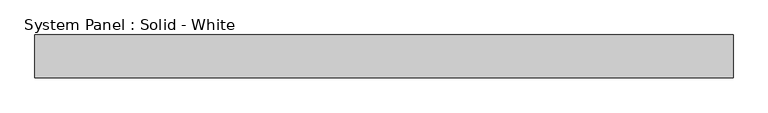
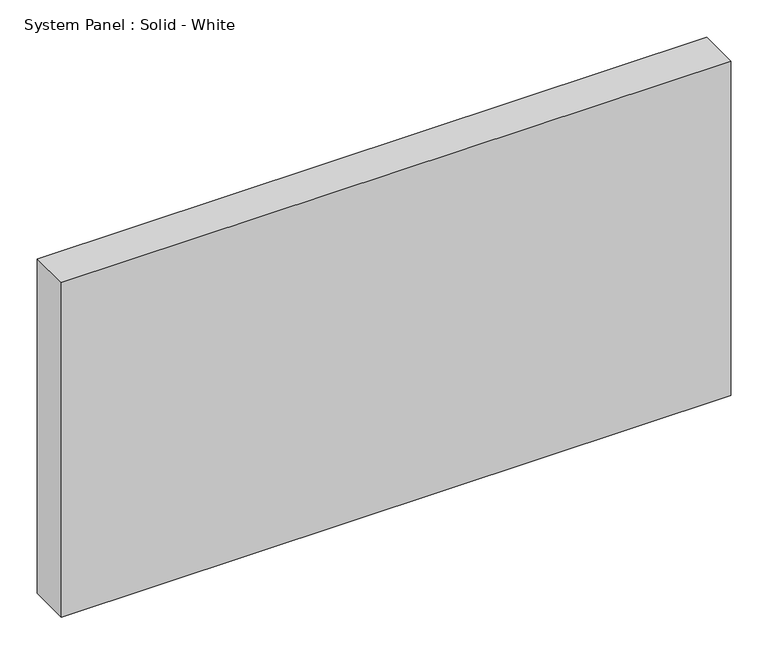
"""IFC4 building model written with IfcOpenShell, lengths in millimetres: plate geometry, System Panel : Solid - White."""

from ifc_helpers import new_model, si_unit, origin, origin_with_axes, place, context, project, spatial, polyline, outline, extrude, source, transform, mapped, element, save


def system_panel_solid_white_89e3ca97(model_context):
    return source(origin(), model_context, "Body", "SweptSolid", [
        extrude(outline(polyline([(516.255, -19.05), (-516.255, -19.05), (-516.255, 44.45), (516.255, 44.45), (516.255, -19.05)])), origin_with_axes(), (0.0, 0.0, 1.0), 546.1),
    ])


if __name__ == "__main__":
    model = new_model("IFC4")
    model_context = context("Model", 3, world=origin())
    ifc_project = project(units=[si_unit("LENGTHUNIT", "METRE", prefix="MILLI")], contexts=[model_context])
    site = spatial("IfcSite", under=ifc_project)
    building = spatial("IfcBuilding", under=site)
    placement = place(None, origin())
    system_panel_solid_white_shape = system_panel_solid_white_89e3ca97(model_context)
    element("IfcPlate", 1, ObjectType="System Panel : Solid - White", at=placement, inside=building, context=model_context, shape_type="MappedRepresentation", body=[
        mapped(system_panel_solid_white_shape, transform((0.0, 0.0, 0.0), x_axis=(1.0, 0.0, 0.0), y_axis=(0.0, 1.0, 0.0), z_axis=(0.0, 0.0, 1.0))),
    ])
    save(model, "model.ifc")
